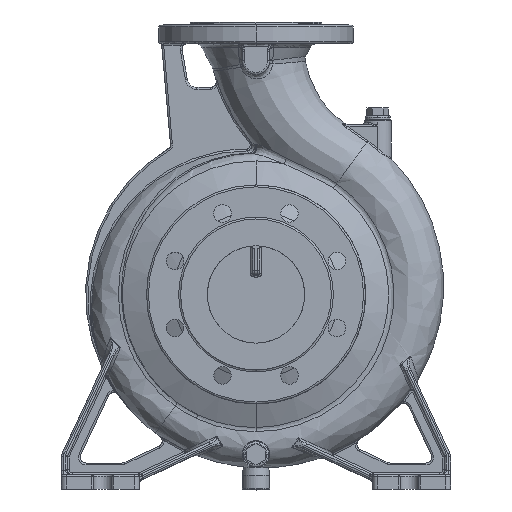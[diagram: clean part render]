
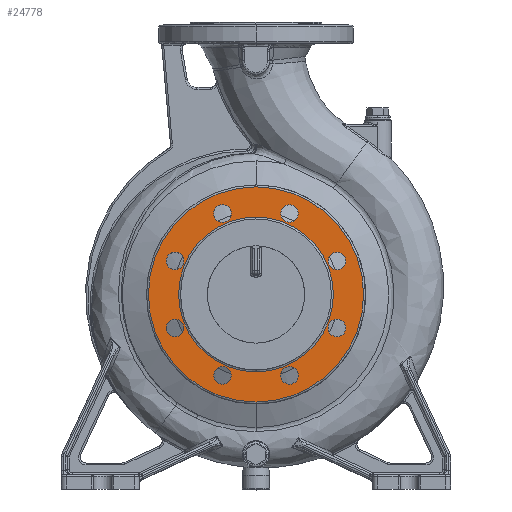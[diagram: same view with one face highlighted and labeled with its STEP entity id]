
A CAD part, top view. The second image highlights one B-rep face of the part: STEP entity #24778.
In plain terms, the highlighted planar face has unit normal (0, 0, 1).
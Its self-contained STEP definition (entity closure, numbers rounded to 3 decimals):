
#6496=CARTESIAN_POINT('',(0.,0.,122.));
#6497=DIRECTION('',(0.,0.,-1.));
#6498=DIRECTION('',(0.,-1.,0.));
#6499=AXIS2_PLACEMENT_3D('',#6496,#6497,#6498);
#6504=CARTESIAN_POINT('',(0.,0.,122.));
#6505=DIRECTION('',(0.,0.,-1.));
#6506=DIRECTION('',(0.,1.,0.));
#6507=AXIS2_PLACEMENT_3D('',#6504,#6505,#6506);
#6512=CARTESIAN_POINT('',(0.,0.,122.));
#6513=DIRECTION('',(0.,0.,1.));
#6514=DIRECTION('',(0.,1.,0.));
#6515=AXIS2_PLACEMENT_3D('',#6512,#6513,#6514);
#6520=CARTESIAN_POINT('',(0.,0.,122.));
#6521=DIRECTION('',(0.,0.,1.));
#6522=DIRECTION('',(0.,-1.,0.));
#6523=AXIS2_PLACEMENT_3D('',#6520,#6521,#6522);
#6528=CARTESIAN_POINT('',(-34.442,83.149,122.));
#6529=DIRECTION('',(0.,0.,1.));
#6530=DIRECTION('',(1.,0.,0.));
#6531=AXIS2_PLACEMENT_3D('',#6528,#6529,#6530);
#6536=CARTESIAN_POINT('',(-34.442,83.149,122.));
#6537=DIRECTION('',(0.,0.,1.));
#6538=DIRECTION('',(-1.,0.,0.));
#6539=AXIS2_PLACEMENT_3D('',#6536,#6537,#6538);
#6544=CARTESIAN_POINT('',(-83.149,34.442,122.));
#6545=DIRECTION('',(0.,0.,1.));
#6546=DIRECTION('',(0.707,0.707,0.));
#6547=AXIS2_PLACEMENT_3D('',#6544,#6545,#6546);
#6552=CARTESIAN_POINT('',(-83.149,34.442,122.));
#6553=DIRECTION('',(0.,0.,1.));
#6554=DIRECTION('',(-0.707,-0.707,0.));
#6555=AXIS2_PLACEMENT_3D('',#6552,#6553,#6554);
#6560=CARTESIAN_POINT('',(-83.149,-34.442,122.));
#6561=DIRECTION('',(0.,0.,1.));
#6562=DIRECTION('',(0.,1.,0.));
#6563=AXIS2_PLACEMENT_3D('',#6560,#6561,#6562);
#6568=CARTESIAN_POINT('',(-83.149,-34.442,122.));
#6569=DIRECTION('',(0.,0.,1.));
#6570=DIRECTION('',(0.,-1.,0.));
#6571=AXIS2_PLACEMENT_3D('',#6568,#6569,#6570);
#6576=CARTESIAN_POINT('',(-34.442,-83.149,122.));
#6577=DIRECTION('',(0.,0.,1.));
#6578=DIRECTION('',(-0.707,0.707,0.));
#6579=AXIS2_PLACEMENT_3D('',#6576,#6577,#6578);
#6584=CARTESIAN_POINT('',(-34.442,-83.149,122.));
#6585=DIRECTION('',(0.,0.,1.));
#6586=DIRECTION('',(0.707,-0.707,0.));
#6587=AXIS2_PLACEMENT_3D('',#6584,#6585,#6586);
#6592=CARTESIAN_POINT('',(34.442,-83.149,122.));
#6593=DIRECTION('',(0.,0.,1.));
#6594=DIRECTION('',(-1.,0.,0.));
#6595=AXIS2_PLACEMENT_3D('',#6592,#6593,#6594);
#6600=CARTESIAN_POINT('',(34.442,-83.149,122.));
#6601=DIRECTION('',(0.,0.,1.));
#6602=DIRECTION('',(1.,0.,0.));
#6603=AXIS2_PLACEMENT_3D('',#6600,#6601,#6602);
#6608=CARTESIAN_POINT('',(83.149,-34.442,122.));
#6609=DIRECTION('',(0.,0.,1.));
#6610=DIRECTION('',(-0.707,-0.707,0.));
#6611=AXIS2_PLACEMENT_3D('',#6608,#6609,#6610);
#6616=CARTESIAN_POINT('',(83.149,-34.442,122.));
#6617=DIRECTION('',(0.,0.,1.));
#6618=DIRECTION('',(0.707,0.707,0.));
#6619=AXIS2_PLACEMENT_3D('',#6616,#6617,#6618);
#6624=CARTESIAN_POINT('',(83.149,34.442,122.));
#6625=DIRECTION('',(0.,0.,1.));
#6626=DIRECTION('',(0.,-1.,0.));
#6627=AXIS2_PLACEMENT_3D('',#6624,#6625,#6626);
#6632=CARTESIAN_POINT('',(83.149,34.442,122.));
#6633=DIRECTION('',(0.,0.,1.));
#6634=DIRECTION('',(0.,1.,0.));
#6635=AXIS2_PLACEMENT_3D('',#6632,#6633,#6634);
#6640=CARTESIAN_POINT('',(34.442,83.149,122.));
#6641=DIRECTION('',(0.,0.,1.));
#6642=DIRECTION('',(0.707,-0.707,0.));
#6643=AXIS2_PLACEMENT_3D('',#6640,#6641,#6642);
#6648=CARTESIAN_POINT('',(34.442,83.149,122.));
#6649=DIRECTION('',(0.,0.,1.));
#6650=DIRECTION('',(-0.707,0.707,0.));
#6651=AXIS2_PLACEMENT_3D('',#6648,#6649,#6650);
#14219=CARTESIAN_POINT('',(0.,-79.5,122.));
#14220=CARTESIAN_POINT('',(0.,79.5,122.));
#14221=VERTEX_POINT('',#14219);
#14222=VERTEX_POINT('',#14220);
#14223=CARTESIAN_POINT('',(0.,110.5,122.));
#14224=CARTESIAN_POINT('',(0.,-110.5,122.));
#14225=VERTEX_POINT('',#14223);
#14226=VERTEX_POINT('',#14224);
#14295=CARTESIAN_POINT('',(-25.442,83.149,122.));
#14296=CARTESIAN_POINT('',(-43.442,83.149,122.));
#14297=VERTEX_POINT('',#14295);
#14298=VERTEX_POINT('',#14296);
#14303=CARTESIAN_POINT('',(-76.785,40.805,122.));
#14304=CARTESIAN_POINT('',(-89.513,28.078,122.));
#14305=VERTEX_POINT('',#14303);
#14306=VERTEX_POINT('',#14304);
#14311=CARTESIAN_POINT('',(-83.149,-25.442,122.));
#14312=CARTESIAN_POINT('',(-83.149,-43.442,122.));
#14313=VERTEX_POINT('',#14311);
#14314=VERTEX_POINT('',#14312);
#14319=CARTESIAN_POINT('',(-40.805,-76.785,122.));
#14320=CARTESIAN_POINT('',(-28.078,-89.513,122.));
#14321=VERTEX_POINT('',#14319);
#14322=VERTEX_POINT('',#14320);
#14327=CARTESIAN_POINT('',(25.442,-83.149,122.));
#14328=CARTESIAN_POINT('',(43.442,-83.149,122.));
#14329=VERTEX_POINT('',#14327);
#14330=VERTEX_POINT('',#14328);
#14335=CARTESIAN_POINT('',(76.785,-40.805,122.));
#14336=CARTESIAN_POINT('',(89.513,-28.078,122.));
#14337=VERTEX_POINT('',#14335);
#14338=VERTEX_POINT('',#14336);
#14343=CARTESIAN_POINT('',(83.149,25.442,122.));
#14344=CARTESIAN_POINT('',(83.149,43.442,122.));
#14345=VERTEX_POINT('',#14343);
#14346=VERTEX_POINT('',#14344);
#14351=CARTESIAN_POINT('',(40.805,76.785,122.));
#14352=CARTESIAN_POINT('',(28.078,89.513,122.));
#14353=VERTEX_POINT('',#14351);
#14354=VERTEX_POINT('',#14352);
#24714=CARTESIAN_POINT('',(0.,0.,122.));
#24715=DIRECTION('',(0.,0.,-1.));
#24716=DIRECTION('',(0.,-1.,0.));
#24717=AXIS2_PLACEMENT_3D('',#24714,#24715,#24716);
#24718=PLANE('',#24717);
#24720=ORIENTED_EDGE('',*,*,#24719,.F.);
#24722=ORIENTED_EDGE('',*,*,#24721,.F.);
#24723=EDGE_LOOP('',(#24720,#24722));
#24724=FACE_OUTER_BOUND('',#24723,.F.);
#24726=ORIENTED_EDGE('',*,*,#24725,.F.);
#24728=ORIENTED_EDGE('',*,*,#24727,.F.);
#24729=EDGE_LOOP('',(#24726,#24728));
#24730=FACE_BOUND('',#24729,.F.);
#24731=ORIENTED_EDGE('',*,*,#24704,.T.);
#24733=ORIENTED_EDGE('',*,*,#24732,.T.);
#24734=EDGE_LOOP('',(#24731,#24733));
#24735=FACE_BOUND('',#24734,.F.);
#24737=ORIENTED_EDGE('',*,*,#24736,.T.);
#24739=ORIENTED_EDGE('',*,*,#24738,.T.);
#24740=EDGE_LOOP('',(#24737,#24739));
#24741=FACE_BOUND('',#24740,.F.);
#24743=ORIENTED_EDGE('',*,*,#24742,.T.);
#24745=ORIENTED_EDGE('',*,*,#24744,.T.);
#24746=EDGE_LOOP('',(#24743,#24745));
#24747=FACE_BOUND('',#24746,.F.);
#24749=ORIENTED_EDGE('',*,*,#24748,.T.);
#24751=ORIENTED_EDGE('',*,*,#24750,.T.);
#24752=EDGE_LOOP('',(#24749,#24751));
#24753=FACE_BOUND('',#24752,.F.);
#24755=ORIENTED_EDGE('',*,*,#24754,.T.);
#24757=ORIENTED_EDGE('',*,*,#24756,.T.);
#24758=EDGE_LOOP('',(#24755,#24757));
#24759=FACE_BOUND('',#24758,.F.);
#24761=ORIENTED_EDGE('',*,*,#24760,.T.);
#24763=ORIENTED_EDGE('',*,*,#24762,.T.);
#24764=EDGE_LOOP('',(#24761,#24763));
#24765=FACE_BOUND('',#24764,.F.);
#24767=ORIENTED_EDGE('',*,*,#24766,.T.);
#24769=ORIENTED_EDGE('',*,*,#24768,.T.);
#24770=EDGE_LOOP('',(#24767,#24769));
#24771=FACE_BOUND('',#24770,.F.);
#24773=ORIENTED_EDGE('',*,*,#24772,.T.);
#24775=ORIENTED_EDGE('',*,*,#24774,.T.);
#24776=EDGE_LOOP('',(#24773,#24775));
#24777=FACE_BOUND('',#24776,.F.);
#6500=CIRCLE('',#6499,79.5);
#6508=CIRCLE('',#6507,79.5);
#6516=CIRCLE('',#6515,110.5);
#6524=CIRCLE('',#6523,110.5);
#6532=CIRCLE('',#6531,9.);
#6540=CIRCLE('',#6539,9.);
#6548=CIRCLE('',#6547,9.);
#6556=CIRCLE('',#6555,9.);
#6564=CIRCLE('',#6563,9.);
#6572=CIRCLE('',#6571,9.);
#6580=CIRCLE('',#6579,9.);
#6588=CIRCLE('',#6587,9.);
#6596=CIRCLE('',#6595,9.);
#6604=CIRCLE('',#6603,9.);
#6612=CIRCLE('',#6611,9.);
#6620=CIRCLE('',#6619,9.);
#6628=CIRCLE('',#6627,9.);
#6636=CIRCLE('',#6635,9.);
#6644=CIRCLE('',#6643,9.);
#6652=CIRCLE('',#6651,9.);
#24704=EDGE_CURVE('',#14297,#14298,#6532,.T.);
#24719=EDGE_CURVE('',#14225,#14226,#6516,.T.);
#24721=EDGE_CURVE('',#14226,#14225,#6524,.T.);
#24725=EDGE_CURVE('',#14221,#14222,#6500,.T.);
#24727=EDGE_CURVE('',#14222,#14221,#6508,.T.);
#24732=EDGE_CURVE('',#14298,#14297,#6540,.T.);
#24736=EDGE_CURVE('',#14305,#14306,#6548,.T.);
#24738=EDGE_CURVE('',#14306,#14305,#6556,.T.);
#24742=EDGE_CURVE('',#14313,#14314,#6564,.T.);
#24744=EDGE_CURVE('',#14314,#14313,#6572,.T.);
#24748=EDGE_CURVE('',#14321,#14322,#6580,.T.);
#24750=EDGE_CURVE('',#14322,#14321,#6588,.T.);
#24754=EDGE_CURVE('',#14329,#14330,#6596,.T.);
#24756=EDGE_CURVE('',#14330,#14329,#6604,.T.);
#24760=EDGE_CURVE('',#14337,#14338,#6612,.T.);
#24762=EDGE_CURVE('',#14338,#14337,#6620,.T.);
#24766=EDGE_CURVE('',#14345,#14346,#6628,.T.);
#24768=EDGE_CURVE('',#14346,#14345,#6636,.T.);
#24772=EDGE_CURVE('',#14353,#14354,#6644,.T.);
#24774=EDGE_CURVE('',#14354,#14353,#6652,.T.);
#24778=ADVANCED_FACE('',(#24724,#24730,#24735,#24741,#24747,#24753,#24759,
#24765,#24771,#24777),#24718,.F.);
